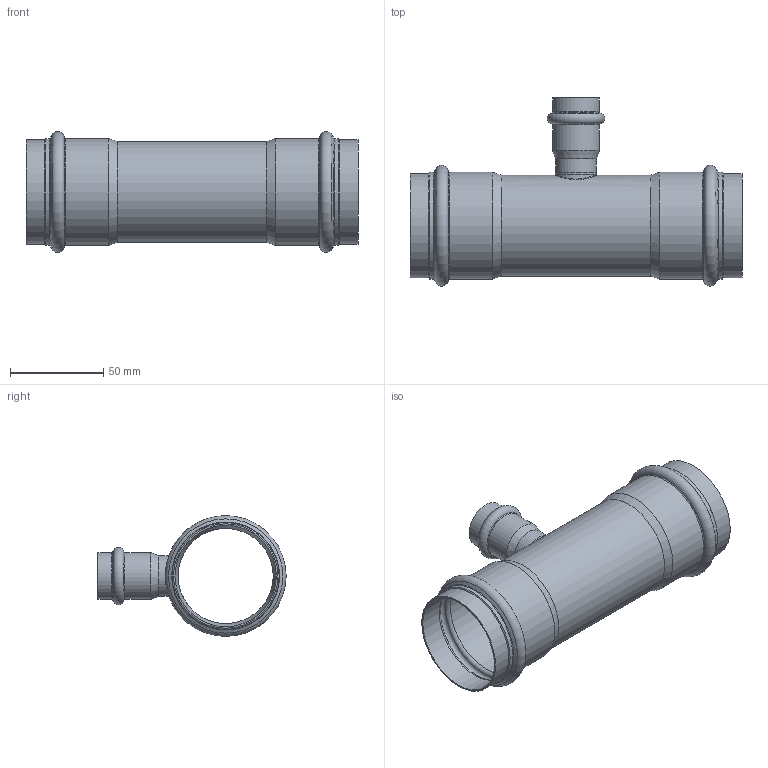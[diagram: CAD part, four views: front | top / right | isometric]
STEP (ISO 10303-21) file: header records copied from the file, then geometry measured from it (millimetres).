
FILE_DESCRIPTION((''),'2;1');
FILE_NAME('G:\Technics\CAD\Bauteile\054\69130542254(1).stp','2008-03-05T15:18:27',('herberg'),(''),'Autodesk Inventor 2008','Autodesk Inventor 2008','');
FILE_SCHEMA(('AUTOMOTIVE_DESIGN { 1 0 10303 214 1 1 1 1 }'));
Length unit declared in the file: millimetre
Products named in the file (3): 69130542254(1); 691305422LM(1); 6924322HM(1)
Assembly tree (2 placements, depth 2):
  69130542254(1)
    691305422LM(1)
    6924322HM(1)
Bounding box: 178 x 100.9 x 64.8 mm (x, y, z)
Volume: 50204.8 mm3; surface area: 70954.7 mm2
Topology: 2 solids, 2 shells, 59 faces, 123 edges, 68 vertices
Faces by surface type: cylinder 20, cone 14, bspline 13, torus 7, plane 5
Full cylindrical faces by diameter (mm): 19 x2, 22 x2, 22.15 x2, 25.15 x2, 51 x1, 54 x1, 54.35 x4, 55.95 x2, 57.35 x4
Entity records: 2816 total; most frequent: CARTESIAN_POINT 1767, DIRECTION 216, ORIENTED_EDGE 124, EDGE_LOOP 118, AXIS2_PLACEMENT_3D 108, EDGE_CURVE 62, VERTEX_POINT 60, FACE_OUTER_BOUND 59
